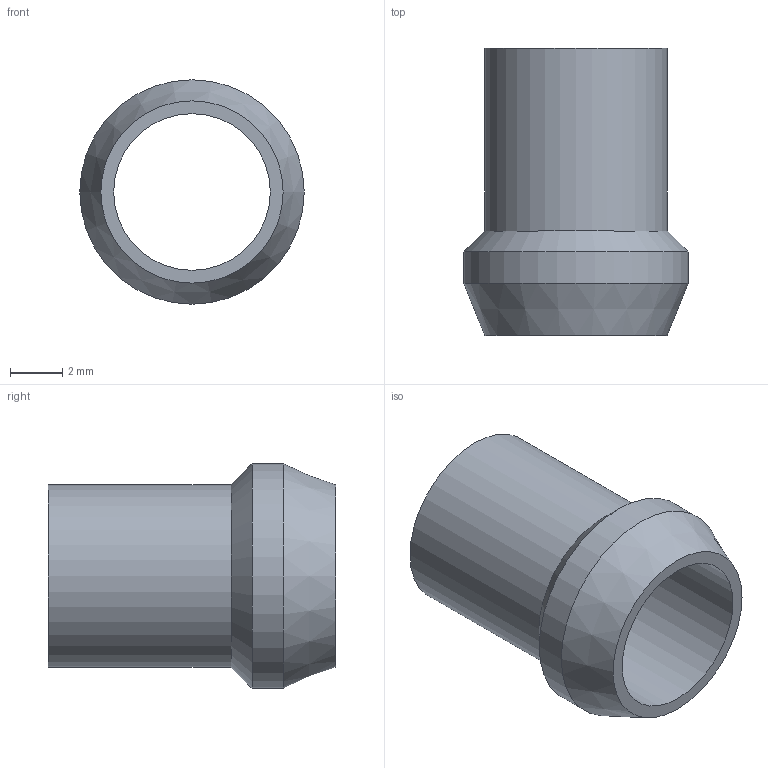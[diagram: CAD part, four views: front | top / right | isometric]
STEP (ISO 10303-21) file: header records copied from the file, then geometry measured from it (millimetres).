
FILE_DESCRIPTION(/* description */ (''),/* implementation_level */ '2;1');
FILE_NAME(/* name */ 'D:\CDC pneumatics\inventor\two touch fitting BSBM\CSM\CSM 06.stp',/* time_stamp */ '2015-10-01T14:01:34+09:00',/* author */ ('DIAMOND'),/* organization */ (''),/* preprocessor_version */ 'ST-DEVELOPER v15.6',/* originating_system */ 'Autodesk Inventor 2015',/* authorisation */ '');
FILE_SCHEMA (('AUTOMOTIVE_DESIGN { 1 0 10303 214 3 1 1 }'));
Length unit declared in the file: millimetre
Products named in the file (1): CSM 06
Bounding box: 8.6 x 11 x 8.6 mm (x, y, z)
Volume: 162.2 mm3; surface area: 494.5 mm2
Topology: 1 solids, 1 shells, 7 faces, 12 edges, 7 vertices
Faces by surface type: cylinder 3, plane 2, cone 2
Full cylindrical faces by diameter (mm): 6 x1, 7 x1, 8.6 x1
Entity records: 172 total; most frequent: DIRECTION 30, CARTESIAN_POINT 22, AXIS2_PLACEMENT_3D 15, EDGE_LOOP 14, ORIENTED_EDGE 14, FACE_BOUND 7, FACE_OUTER_BOUND 7, CIRCLE 7
